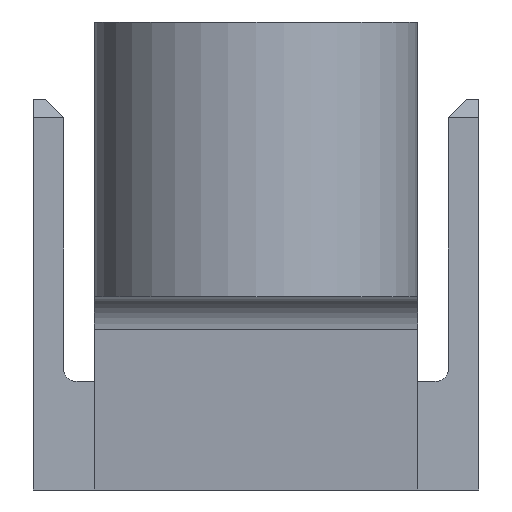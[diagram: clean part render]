
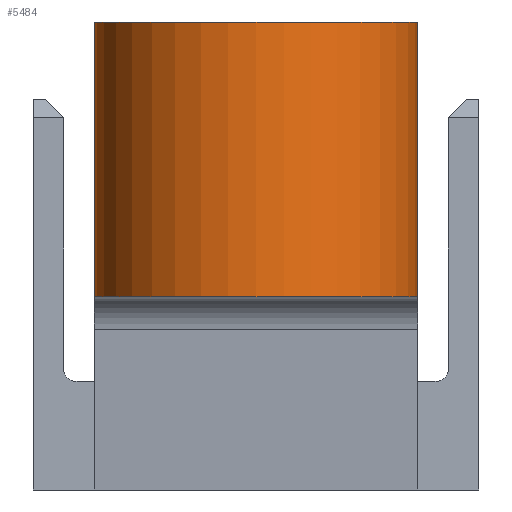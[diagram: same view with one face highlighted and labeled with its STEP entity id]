
A CAD part, left-side view. The second image highlights one B-rep face of the part: STEP entity #5484.
In plain terms, the highlighted cylindrical face has radius 6.731 mm (diameter 13.462 mm), a partial arc.
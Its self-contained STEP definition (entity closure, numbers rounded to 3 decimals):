
#1374=DIRECTION('',(0.,0.,-1.));
#1375=VECTOR('',#1374,11.43);
#1376=CARTESIAN_POINT('',(-51.956,-6.731,0.));
#1377=LINE('',#1376,#1375);
#1597=CARTESIAN_POINT('',(-51.956,0.,0.));
#1598=DIRECTION('',(0.,0.,1.));
#1599=DIRECTION('',(0.,1.,0.));
#1600=AXIS2_PLACEMENT_3D('',#1597,#1598,#1599);
#1698=CARTESIAN_POINT('',(-51.956,0.,-11.43));
#1699=DIRECTION('',(0.,0.,-1.));
#1700=DIRECTION('',(0.,-1.,0.));
#1701=AXIS2_PLACEMENT_3D('',#1698,#1699,#1700);
#1703=DIRECTION('',(0.,0.,-1.));
#1704=VECTOR('',#1703,11.43);
#1705=CARTESIAN_POINT('',(-51.956,6.731,0.));
#1706=LINE('',#1705,#1704);
#2622=CARTESIAN_POINT('',(-51.956,6.731,0.));
#2623=CARTESIAN_POINT('',(-51.956,-6.731,0.));
#2624=VERTEX_POINT('',#2622);
#2625=VERTEX_POINT('',#2623);
#3170=CARTESIAN_POINT('',(-51.956,-6.731,-11.43));
#3171=CARTESIAN_POINT('',(-51.956,6.731,-11.43));
#3172=VERTEX_POINT('',#3170);
#3173=VERTEX_POINT('',#3171);
#5472=CARTESIAN_POINT('',(-51.956,0.,0.));
#5473=DIRECTION('',(0.,0.,1.));
#5474=DIRECTION('',(1.,0.,0.));
#5475=AXIS2_PLACEMENT_3D('',#5472,#5473,#5474);
#5476=CYLINDRICAL_SURFACE('',#5475,6.731);
#5478=ORIENTED_EDGE('',*,*,#5477,.T.);
#5479=ORIENTED_EDGE('',*,*,#5247,.F.);
#5480=ORIENTED_EDGE('',*,*,#5314,.T.);
#5481=ORIENTED_EDGE('',*,*,#5059,.T.);
#5482=EDGE_LOOP('',(#5478,#5479,#5480,#5481));
#5483=FACE_OUTER_BOUND('',#5482,.F.);
#1601=CIRCLE('',#1600,6.731);
#1702=CIRCLE('',#1701,6.731);
#5059=EDGE_CURVE('',#2625,#3172,#1377,.T.);
#5247=EDGE_CURVE('',#2624,#3173,#1706,.T.);
#5314=EDGE_CURVE('',#2624,#2625,#1601,.T.);
#5477=EDGE_CURVE('',#3172,#3173,#1702,.T.);
#5484=ADVANCED_FACE('',(#5483),#5476,.T.);
